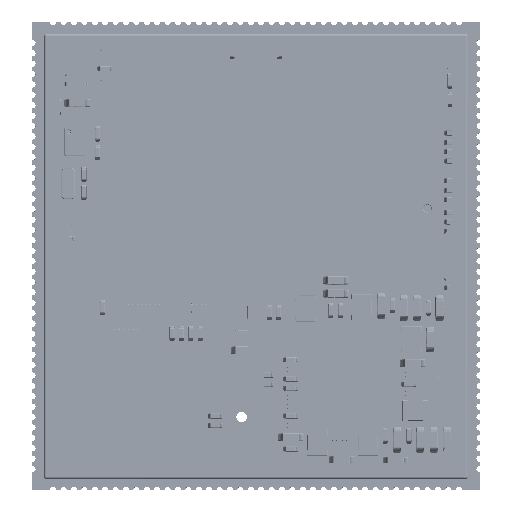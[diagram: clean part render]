
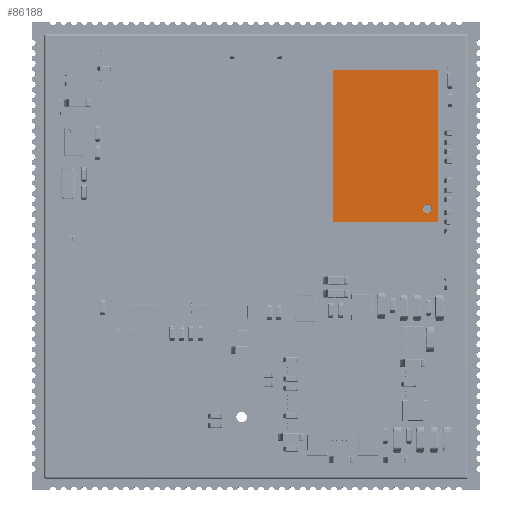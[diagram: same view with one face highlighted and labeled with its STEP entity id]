
A CAD part, top view. The second image highlights one B-rep face of the part: STEP entity #86188.
In plain terms, the highlighted planar face has unit normal (0, 0, 1).
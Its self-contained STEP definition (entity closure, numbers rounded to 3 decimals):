
#3546 = CARTESIAN_POINT ( 'NONE',  ( -3.896, 6.408, 0.8 ) ) ;
#4422 = CARTESIAN_POINT ( 'NONE',  ( -4.418, 6.053, 0.8 ) ) ;
#5261 = CARTESIAN_POINT ( 'NONE',  ( -4.401, 6.128, 0.8 ) ) ;
#5830 = CARTESIAN_POINT ( 'NONE',  ( -4.42, 6., 0.8 ) ) ;
#6124 = CARTESIAN_POINT ( 'NONE',  ( -3.683, 6.277, 0.8 ) ) ;
#7010 = CARTESIAN_POINT ( 'NONE',  ( -3.59, 6.105, 0.8 ) ) ;
#9105 = VECTOR ( 'NONE', #132910, 1000. ) ;
#10849 = CARTESIAN_POINT ( 'NONE',  ( -3.793, 5.634, 0.8 ) ) ;
#13058 = LINE ( 'NONE', #105910, #141900 ) ;
#13394 = CARTESIAN_POINT ( 'NONE',  ( -3.582, 5.947, 0.8 ) ) ;
#13414 = EDGE_CURVE ( 'NONE', #132062, #153179, #148290, .T. ) ;
#18320 = CARTESIAN_POINT ( 'NONE',  ( -4.338, 6.256, 0.8 ) ) ;
#19999 = CARTESIAN_POINT ( 'NONE',  ( -3.58, 6., 0.8 ) ) ;
#21920 = CARTESIAN_POINT ( 'NONE',  ( 5.04, -0.735, 0.8 ) ) ;
#25188 = DIRECTION ( 'NONE',  ( -1., 0., 0. ) ) ;
#26894 = EDGE_CURVE ( 'NONE', #153179, #45436, #125452, .T. ) ;
#29030 = CARTESIAN_POINT ( 'NONE',  ( 5.04, -7.29, 0.8 ) ) ;
#29544 = CARTESIAN_POINT ( 'NONE',  ( -4.244, 6.344, 0.8 ) ) ;
#30390 = CARTESIAN_POINT ( 'NONE',  ( -4.408, 6.104, 0.8 ) ) ;
#31263 = CARTESIAN_POINT ( 'NONE',  ( -4.369, 6.208, 0.8 ) ) ;
#38608 = CARTESIAN_POINT ( 'NONE',  ( -4.42, 6., 0.8 ) ) ;
#40287 = CARTESIAN_POINT ( 'NONE',  ( -3.833, 5.614, 0.8 ) ) ;
#44943 = CARTESIAN_POINT ( 'NONE',  ( 0., 0., 0.8 ) ) ;
#45130 = CARTESIAN_POINT ( 'NONE',  ( -4.053, 6.42, 0.8 ) ) ;
#45436 = VERTEX_POINT ( 'NONE', #149436 ) ;
#45711 = VERTEX_POINT ( 'NONE', #5830 ) ;
#46859 = CARTESIAN_POINT ( 'NONE',  ( -3.634, 6.207, 0.8 ) ) ;
#50726 = CARTESIAN_POINT ( 'NONE',  ( -3.58, 6., 0.8 ) ) ;
#51302 = CARTESIAN_POINT ( 'NONE',  ( -5.04, 7.29, 0.8 ) ) ;
#52437 = CARTESIAN_POINT ( 'NONE',  ( -4.027, 5.58, 0.8 ) ) ;
#52995 = B_SPLINE_CURVE_WITH_KNOTS ( 'NONE', 3,
 ( #50726, #169589, #13394, #66262, #168766, #159169, #118466, #91532, #129763, #10849, #156641, #40287, #142744, #119296, #52437, #78504, #115875, #75933, #132303, #102826, #158305, #89848, #145297, #63717, #79363, #90709, #104548, #38608 ),
 .UNSPECIFIED., .F., .F.,
 ( 4, 2, 2, 2, 1, 2, 2, 2, 2, 2, 2, 1, 2, 2, 4 ),
 ( 0., 0.063, 0.125, 0.25, 0.313, 0.344, 0.375, 0.5, 0.563, 0.625, 0.75, 0.813, 0.844, 0.875, 1. ),
 .UNSPECIFIED. ) ;
#56430 = EDGE_CURVE ( 'NONE', #123425, #132062, #13058, .T. ) ;
#57305 = CARTESIAN_POINT ( 'NONE',  ( -3.947, 6.418, 0.8 ) ) ;
#58151 = CARTESIAN_POINT ( 'NONE',  ( -4.181, 6.379, 0.8 ) ) ;
#58997 = CARTESIAN_POINT ( 'NONE',  ( -3.656, 6.244, 0.8 ) ) ;
#63717 = CARTESIAN_POINT ( 'NONE',  ( -4.379, 5.819, 0.8 ) ) ;
#65298 = EDGE_CURVE ( 'NONE', #45711, #142674, #104661, .T. ) ;
#66262 = CARTESIAN_POINT ( 'NONE',  ( -3.592, 5.896, 0.8 ) ) ;
#72030 = CARTESIAN_POINT ( 'NONE',  ( -3.973, 6.42, 0.8 ) ) ;
#75933 = CARTESIAN_POINT ( 'NONE',  ( -4.128, 5.599, 0.8 ) ) ;
#76539 = EDGE_CURVE ( 'NONE', #142674, #45711, #52995, .T. ) ;
#77768 = VECTOR ( 'NONE', #122298, 1000. ) ;
#78504 = CARTESIAN_POINT ( 'NONE',  ( -4.053, 5.582, 0.8 ) ) ;
#79363 = CARTESIAN_POINT ( 'NONE',  ( -4.386, 5.833, 0.8 ) ) ;
#82400 = CARTESIAN_POINT ( 'NONE',  ( -5.04, 0., 0.8 ) ) ;
#82542 = CARTESIAN_POINT ( 'NONE',  ( -3.621, 6.181, 0.8 ) ) ;
#83377 = CARTESIAN_POINT ( 'NONE',  ( -4.42, 6., 0.8 ) ) ;
#84254 = CARTESIAN_POINT ( 'NONE',  ( -4.105, 6.41, 0.8 ) ) ;
#84921 = FACE_OUTER_BOUND ( 'NONE', #113907, .T. ) ;
#86188 = ADVANCED_FACE ( 'NONE', ( #150849, #84921 ), #121406, .T. ) ;
#89848 = CARTESIAN_POINT ( 'NONE',  ( -4.344, 5.756, 0.8 ) ) ;
#90450 = EDGE_LOOP ( 'NONE', ( #169120, #116626 ) ) ;
#90709 = CARTESIAN_POINT ( 'NONE',  ( -4.41, 5.895, 0.8 ) ) ;
#91532 = CARTESIAN_POINT ( 'NONE',  ( -3.723, 5.683, 0.8 ) ) ;
#94451 = DIRECTION ( 'NONE',  ( 0., 0., 1. ) ) ;
#96390 = CARTESIAN_POINT ( 'NONE',  ( -4.277, 6.317, 0.8 ) ) ;
#98113 = CARTESIAN_POINT ( 'NONE',  ( -3.744, 6.338, 0.8 ) ) ;
#102826 = CARTESIAN_POINT ( 'NONE',  ( -4.256, 5.662, 0.8 ) ) ;
#104232 = ORIENTED_EDGE ( 'NONE', *, *, #56430, .F. ) ;
#104548 = CARTESIAN_POINT ( 'NONE',  ( -4.42, 5.946, 0.8 ) ) ;
#104661 = B_SPLINE_CURVE_WITH_KNOTS ( 'NONE', 3,
 ( #83377, #123330, #4422, #30390, #5261, #31263, #18320, #96390, #29544, #136322, #58151, #151039, #84254, #45130, #72030, #57305, #3546, #165745, #125027, #98113, #6124, #58997, #46859, #82542, #149296, #7010, #151890, #19999 ),
 .UNSPECIFIED., .F., .F.,
 ( 4, 2, 2, 2, 1, 2, 2, 2, 2, 2, 2, 1, 2, 2, 4 ),
 ( 0., 0.063, 0.125, 0.25, 0.313, 0.344, 0.375, 0.5, 0.563, 0.625, 0.75, 0.813, 0.844, 0.875, 1. ),
 .UNSPECIFIED. ) ;
#105910 = CARTESIAN_POINT ( 'NONE',  ( 0., -7.29, 0.8 ) ) ;
#113290 = CARTESIAN_POINT ( 'NONE',  ( 0.509, 7.29, 0.8 ) ) ;
#113907 = EDGE_LOOP ( 'NONE', ( #165333, #137751, #104232, #148606 ) ) ;
#115875 = CARTESIAN_POINT ( 'NONE',  ( -4.104, 5.592, 0.8 ) ) ;
#116626 = ORIENTED_EDGE ( 'NONE', *, *, #76539, .T. ) ;
#117349 = CARTESIAN_POINT ( 'NONE',  ( -5.04, -7.29, 0.8 ) ) ;
#118466 = CARTESIAN_POINT ( 'NONE',  ( -3.662, 5.744, 0.8 ) ) ;
#118749 = AXIS2_PLACEMENT_3D ( 'NONE', #44943, #94451, #147359 ) ;
#119296 = CARTESIAN_POINT ( 'NONE',  ( -3.947, 5.58, 0.8 ) ) ;
#121406 = PLANE ( 'NONE',  #118749 ) ;
#122298 = DIRECTION ( 'NONE',  ( 0., 1., 0. ) ) ;
#123330 = CARTESIAN_POINT ( 'NONE',  ( -4.42, 6.027, 0.8 ) ) ;
#123425 = VERTEX_POINT ( 'NONE', #29030 ) ;
#125027 = CARTESIAN_POINT ( 'NONE',  ( -3.792, 6.369, 0.8 ) ) ;
#125452 = LINE ( 'NONE', #113290, #128046 ) ;
#128046 = VECTOR ( 'NONE', #166165, 1000. ) ;
#129763 = CARTESIAN_POINT ( 'NONE',  ( -3.756, 5.656, 0.8 ) ) ;
#132062 = VERTEX_POINT ( 'NONE', #117349 ) ;
#132303 = CARTESIAN_POINT ( 'NONE',  ( -4.208, 5.631, 0.8 ) ) ;
#132910 = DIRECTION ( 'NONE',  ( 0., -1., 0. ) ) ;
#136322 = CARTESIAN_POINT ( 'NONE',  ( -4.207, 6.366, 0.8 ) ) ;
#137751 = ORIENTED_EDGE ( 'NONE', *, *, #13414, .F. ) ;
#140791 = LINE ( 'NONE', #21920, #9105 ) ;
#141900 = VECTOR ( 'NONE', #25188, 1000. ) ;
#142674 = VERTEX_POINT ( 'NONE', #170065 ) ;
#142744 = CARTESIAN_POINT ( 'NONE',  ( -3.895, 5.59, 0.8 ) ) ;
#145297 = CARTESIAN_POINT ( 'NONE',  ( -4.366, 5.793, 0.8 ) ) ;
#145503 = EDGE_CURVE ( 'NONE', #45436, #123425, #140791, .T. ) ;
#147359 = DIRECTION ( 'NONE',  ( 1., 0., 0. ) ) ;
#148290 = LINE ( 'NONE', #82400, #77768 ) ;
#148606 = ORIENTED_EDGE ( 'NONE', *, *, #145503, .F. ) ;
#149296 = CARTESIAN_POINT ( 'NONE',  ( -3.614, 6.167, 0.8 ) ) ;
#149436 = CARTESIAN_POINT ( 'NONE',  ( 5.04, 7.29, 0.8 ) ) ;
#150849 = FACE_BOUND ( 'NONE', #90450, .T. ) ;
#151039 = CARTESIAN_POINT ( 'NONE',  ( -4.167, 6.386, 0.8 ) ) ;
#151890 = CARTESIAN_POINT ( 'NONE',  ( -3.58, 6.054, 0.8 ) ) ;
#153179 = VERTEX_POINT ( 'NONE', #51302 ) ;
#156641 = CARTESIAN_POINT ( 'NONE',  ( -3.819, 5.621, 0.8 ) ) ;
#158305 = CARTESIAN_POINT ( 'NONE',  ( -4.317, 5.723, 0.8 ) ) ;
#159169 = CARTESIAN_POINT ( 'NONE',  ( -3.631, 5.792, 0.8 ) ) ;
#165333 = ORIENTED_EDGE ( 'NONE', *, *, #26894, .F. ) ;
#165745 = CARTESIAN_POINT ( 'NONE',  ( -3.872, 6.401, 0.8 ) ) ;
#166165 = DIRECTION ( 'NONE',  ( 1., 0., 0. ) ) ;
#168766 = CARTESIAN_POINT ( 'NONE',  ( -3.599, 5.872, 0.8 ) ) ;
#169120 = ORIENTED_EDGE ( 'NONE', *, *, #65298, .T. ) ;
#169589 = CARTESIAN_POINT ( 'NONE',  ( -3.58, 5.973, 0.8 ) ) ;
#170065 = CARTESIAN_POINT ( 'NONE',  ( -3.58, 6., 0.8 ) ) ;
